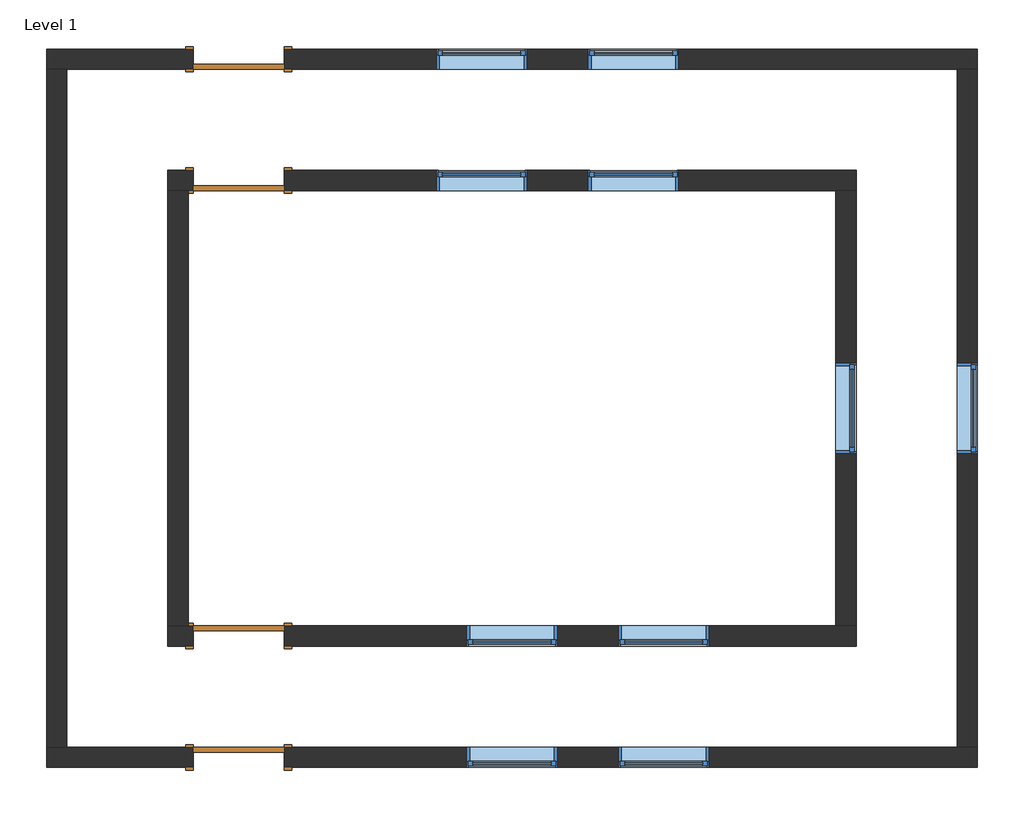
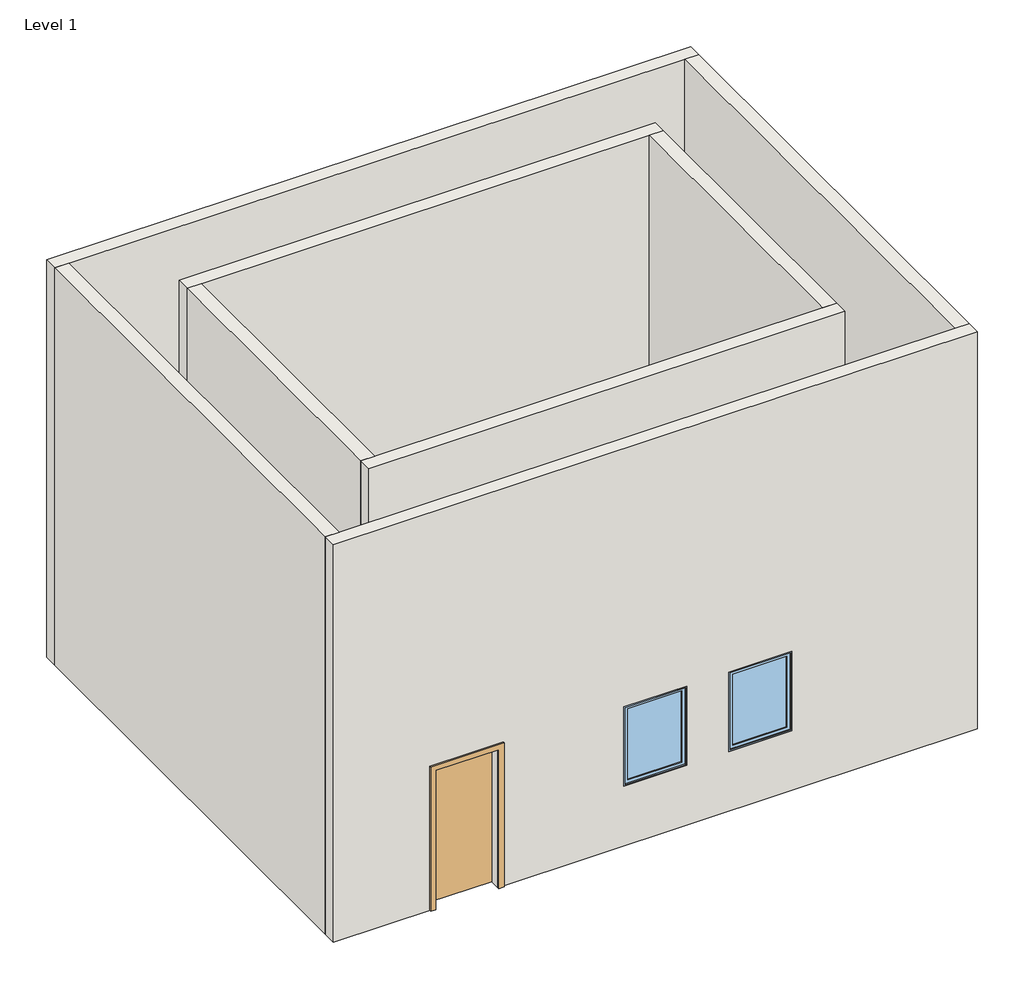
# One storey: 10 windows, 8 walls, 4 doors.
"""IFC4 building model written with IfcOpenShell, lengths in millimetres."""

import ifcopenshell
import ifcopenshell.guid

model = None  # the IFC model being written
_history = None  # IfcOwnerHistory: only IFC2X3 demands one
_inside = {}  # id of a spatial element -> (the spatial element, [elements in it])
_under = {}  # id of a project, library or spatial element -> (it, [spatial elements below it])
_declared = {}  # id of a project -> (the project, [libraries it declares])
_typed = {}  # id of a type object -> (the type object, [elements of that type])
_made_of = {}  # id of a material, layer set ... -> (it, [elements and type objects made of it])


def new_model(schema):
    """Start an empty IFC model of exactly this schema.

    Asked for "IFC4X3", IfcOpenShell would pick the latest addendum, in which some entities
    have other attributes; the version numbers below select the first issue.
    IFC2X3 requires an IfcOwnerHistory on every rooted entity: one is made here for all.
    """
    global model, _history
    if schema == "IFC4X3":
        model = ifcopenshell.file(schema_version=(4, 3, 0, 0))
    else:
        model = ifcopenshell.file(schema=schema)
    _inside.clear()
    _under.clear()
    _declared.clear()
    _typed.clear()
    _made_of.clear()
    _history = None
    if model.schema == "IFC2X3":
        org = make("IfcOrganization", Name="unknown")
        user = make(
            "IfcPersonAndOrganization",
            ThePerson=make("IfcPerson", FamilyName="unknown"),
            TheOrganization=org,
        )
        app = make(
            "IfcApplication",
            ApplicationDeveloper=org,
            Version="unknown",
            ApplicationFullName="unknown",
            ApplicationIdentifier="unknown",
        )
        _history = make(
            "IfcOwnerHistory",
            OwningUser=user,
            OwningApplication=app,
            ChangeAction="ADDED",
            CreationDate=0,
        )
    return model


def make(cls, **values):
    """One entity of the class cls with the attributes given. An attribute that is None is left unset."""
    return model.create_entity(
        cls, **{name: value for name, value in values.items() if value is not None}
    )


def rooted(cls, **values):
    """An entity with a GlobalId (a new one), such as an element, a storey or a relation."""
    return make(cls, GlobalId=ifcopenshell.guid.new(), OwnerHistory=_history, **values)


def si_unit(unit_type, name, prefix=None):
    """IfcSIUnit, for example si_unit("LENGTHUNIT", "METRE", prefix="MILLI")."""
    return make("IfcSIUnit", UnitType=unit_type, Prefix=prefix, Name=name)


def assignment(units):
    """IfcUnitAssignment: the units of a project."""
    return None if units is None else make("IfcUnitAssignment", Units=units)


def point(xyz):
    """IfcCartesianPoint."""
    return None if xyz is None else make("IfcCartesianPoint", Coordinates=xyz)


def direction(xyz):
    """IfcDirection."""
    return None if xyz is None else make("IfcDirection", DirectionRatios=xyz)


def frame(location, z_axis=None, x_axis=None):
    """IfcAxis2Placement3D, a coordinate frame: its origin and axes. An axis left out is left unset."""
    return make(
        "IfcAxis2Placement3D",
        Location=point(location),
        Axis=direction(z_axis),
        RefDirection=direction(x_axis),
    )


def origin():
    """The frame at (0, 0, 0) with its axes left unset."""
    return frame((0.0, 0.0, 0.0))


def origin_with_axes():
    """The frame at (0, 0, 0) with the z axis (0, 0, 1) and the x axis (1, 0, 0) written out."""
    return frame((0.0, 0.0, 0.0), z_axis=(0.0, 0.0, 1.0), x_axis=(1.0, 0.0, 0.0))


def place(relative_to, where):
    """IfcLocalPlacement: puts the frame where relative to a parent placement (None: the world)."""
    return make(
        "IfcLocalPlacement", PlacementRelTo=relative_to, RelativePlacement=where
    )


def context(
    kind, dimensions, precision=None, world=None, true_north=None, identifier=None
):
    """IfcGeometricRepresentationContext, for example the 3D "Model" context."""
    return make(
        "IfcGeometricRepresentationContext",
        ContextIdentifier=identifier,
        ContextType=kind,
        CoordinateSpaceDimension=dimensions,
        Precision=precision,
        WorldCoordinateSystem=world,
        TrueNorth=true_north,
    )


def project(units=None, contexts=None):
    """IfcProject with its units and contexts."""
    return rooted(
        "IfcProject",
        Name="project",
        RepresentationContexts=contexts,
        UnitsInContext=assignment(units),
    )


def spatial(cls, under=None, at=None, **own):
    """A site, building, storey or space (cls), placed at a placement, below another one or the project."""
    s = rooted(cls, ObjectPlacement=at, **own)
    if under is not None:
        _under.setdefault(under.id(), (under, []))[1].append(s)
    return s


def polyline(points):
    """IfcPolyline through the points."""
    return make("IfcPolyline", Points=[point(p) for p in points])


def outline(outer, holes=None, kind="AREA"):
    """IfcArbitraryClosedProfileDef: a profile drawn as a closed curve; with holes, ...WithVoids."""
    if holes is None:
        return make("IfcArbitraryClosedProfileDef", ProfileType=kind, OuterCurve=outer)
    return make(
        "IfcArbitraryProfileDefWithVoids",
        ProfileType=kind,
        OuterCurve=outer,
        InnerCurves=holes,
    )


def extrude(swept, where, along, depth):
    """IfcExtrudedAreaSolid: the profile swept, set in the frame where, extruded along a direction by depth."""
    return make(
        "IfcExtrudedAreaSolid",
        SweptArea=swept,
        Position=where,
        ExtrudedDirection=direction(along),
        Depth=depth,
    )


def faces_of(points, faces, orient=None, outer=None):
    """IfcFace entities. A face is a list of loops; a loop is a list of indices into points, from 0.

    orient and outer hold one flag for each loop. By default every Orientation is true, the
    first loop of a face is its IfcFaceOuterBound and the others are IfcFaceBound.
    """
    made = []
    for i, loops in enumerate(faces):
        bounds = []
        for j, loop in enumerate(loops):
            is_outer = j == 0 if outer is None else outer[i][j]
            bounds.append(
                make(
                    "IfcFaceOuterBound" if is_outer else "IfcFaceBound",
                    Bound=make("IfcPolyLoop", Polygon=[points[k] for k in loop]),
                    Orientation=True if orient is None else orient[i][j],
                )
            )
        made.append(make("IfcFace", Bounds=bounds))
    return made


def faceted_brep(points, faces, orient=None, outer=None, voids=None):
    """IfcFacetedBrep: a solid bounded by flat faces; with voids (closed shells), ...WithVoids."""
    shared = [point(p) for p in points]
    hull = make("IfcClosedShell", CfsFaces=faces_of(shared, faces, orient, outer))
    if voids is None:
        return make("IfcFacetedBrep", Outer=hull)
    return make(
        "IfcFacetedBrepWithVoids",
        Outer=hull,
        Voids=[
            make(cls, CfsFaces=faces_of(shared, fs, o, b)) for cls, fs, o, b in voids
        ],
    )


def shape(context_of_items, identifier, shape_type, items):
    """IfcShapeRepresentation: the items that make up one representation, for example the "Body"."""
    return make(
        "IfcShapeRepresentation",
        ContextOfItems=context_of_items,
        RepresentationIdentifier=identifier,
        RepresentationType=shape_type,
        Items=items,
    )


def source(mapping_origin, context_of_items, identifier, shape_type, items):
    """IfcRepresentationMap: a shape defined once, which mapped items show again and again."""
    return make(
        "IfcRepresentationMap",
        MappingOrigin=mapping_origin,
        MappedRepresentation=shape(context_of_items, identifier, shape_type, items),
    )


def transform(
    local_origin,
    x_axis=None,
    y_axis=None,
    z_axis=None,
    scale=None,
    scale2=None,
    scale3=None,
    uniform=True,
):
    """IfcCartesianTransformationOperator3D, or its non-uniform kind. x_axis, y_axis, z_axis: its Axis1, 2, 3."""
    if uniform:
        return make(
            "IfcCartesianTransformationOperator3D",
            Axis1=direction(x_axis),
            Axis2=direction(y_axis),
            LocalOrigin=point(local_origin),
            Scale=scale,
            Axis3=direction(z_axis),
        )
    return make(
        "IfcCartesianTransformationOperator3DnonUniform",
        Axis1=direction(x_axis),
        Axis2=direction(y_axis),
        LocalOrigin=point(local_origin),
        Scale=scale,
        Axis3=direction(z_axis),
        Scale2=scale2,
        Scale3=scale3,
    )


def mapped(mapping_source, mapping_target):
    """IfcMappedItem: shows the shape of a source again, moved by a transform."""
    return make(
        "IfcMappedItem", MappingSource=mapping_source, MappingTarget=mapping_target
    )


def made_of(thing, what):
    """Note that an element or type object is made of a material, layer set ...; save() writes the relation."""
    if what is not None:
        _made_of.setdefault(what.id(), (what, []))[1].append(thing)
    return thing


def element(
    cls,
    number,
    at=None,
    inside=None,
    cuts=None,
    type_object=None,
    material=None,
    context=None,
    identifier="Body",
    shape_type=None,
    held_by="IfcProductDefinitionShape",
    body=None,
    shapes=None,
    **own,
):
    """One element of the class cls, such as IfcWall. Its Tag is "e" and its number.

    at: its placement. inside: the storey or other place that contains it. cuts: it is an
    opening in that element (IfcRelVoidsElement). A single representation is given by context,
    identifier, shape_type and body (its items); several are given by shapes. held_by: the class
    of the entity that holds the representations. save() writes the other relations.
    """
    e = rooted(cls, Tag="e%d" % number, ObjectPlacement=at, **own)
    if body is not None:
        shapes = [shape(context, identifier, shape_type, body)]
    if shapes is not None:
        e.Representation = make(held_by, Representations=shapes)
    if inside is not None:
        _inside.setdefault(inside.id(), (inside, []))[1].append(e)
    if cuts is not None:
        rooted(
            "IfcRelVoidsElement", RelatingBuildingElement=cuts, RelatedOpeningElement=e
        )
    if type_object is not None:
        _typed.setdefault(type_object.id(), (type_object, []))[1].append(e)
    return made_of(e, material)


def aggregate(whole, parts):
    """IfcRelAggregates: a whole, such as a stair, and the parts it consists of."""
    return rooted("IfcRelAggregates", RelatingObject=whole, RelatedObjects=parts)


def save(model, path):
    """Write the relations noted so far, then the file.

    IfcRelAggregates (storeys below a building ...), IfcRelContainedInSpatialStructure (elements
    in a storey), IfcRelDefinesByType, IfcRelAssociatesMaterial and IfcRelDeclares: one each for
    every whole, place, type object, material and project.
    """
    for whole, parts in _under.values():
        aggregate(whole, parts)
    for where, things in _inside.values():
        rooted(
            "IfcRelContainedInSpatialStructure",
            RelatedElements=things,
            RelatingStructure=where,
        )
    for kind, things in _typed.values():
        rooted("IfcRelDefinesByType", RelatedObjects=things, RelatingType=kind)
    for what, things in _made_of.values():
        rooted("IfcRelAssociatesMaterial", RelatedObjects=things, RelatingMaterial=what)
    for by, libraries in _declared.values():
        rooted("IfcRelDeclares", RelatingContext=by, RelatedDefinitions=libraries)
    model.write(path)


def door_54dd4da4(model_context):
    return source(origin(), model_context, "Body", "SweptSolid", [
        extrude(outline(polyline([(2209.8, -533.4), (0.0, -533.4), (0.0, -457.2), (2133.6, -457.2), (2133.6, 457.2), (0.0, 457.2), (0.0, 533.4), (2209.8, 533.4), (2209.8, -533.4)])), frame((0.0, 101.6, 0.0), z_axis=(0.0, 1.0, 0.0), x_axis=(0.0, 0.0, 1.0)), (0.0, 0.0, 1.0), 25.4),
        extrude(outline(polyline([(2209.8, 533.4), (2209.8, -533.4), (0.0, -533.4), (0.0, -457.2), (2133.6, -457.2), (2133.6, 457.2), (0.0, 457.2), (0.0, 533.4), (2209.8, 533.4)])), frame((0.0, -127.0, 0.0), z_axis=(0.0, 1.0, 0.0), x_axis=(0.0, 0.0, 1.0)), (0.0, 0.0, 1.0), 25.4),
        extrude(outline(polyline([(457.2, 50.8), (-457.2, 50.8), (-457.2, 101.6), (457.2, 101.6), (457.2, 50.8)])), origin_with_axes(), (0.0, 0.0, 1.0), 2133.6),
    ])


def door_719f80de(model_context):
    return source(origin(), model_context, "Body", "SweptSolid", [
        extrude(outline(polyline([(2209.8, -533.4), (0.0, -533.4), (0.0, -457.2), (2133.6, -457.2), (2133.6, 457.2), (0.0, 457.2), (0.0, 533.4), (2209.8, 533.4), (2209.8, -533.4)])), frame((0.0, -127.0, 0.0), z_axis=(0.0, 1.0, 0.0), x_axis=(0.0, 0.0, 1.0)), (0.0, 0.0, 1.0), 25.4),
        extrude(outline(polyline([(2209.8, 533.4), (2209.8, -533.4), (0.0, -533.4), (0.0, -457.2), (2133.6, -457.2), (2133.6, 457.2), (0.0, 457.2), (0.0, 533.4), (2209.8, 533.4)])), frame((0.0, 101.6, 0.0), z_axis=(0.0, 1.0, 0.0), x_axis=(0.0, 0.0, 1.0)), (0.0, 0.0, 1.0), 25.4),
        extrude(outline(polyline([(457.2, -50.8), (457.2, -101.6), (-457.2, -101.6), (-457.2, -50.8), (457.2, -50.8)])), origin_with_axes(), (0.0, 0.0, 1.0), 2133.6),
    ])


def window_e2841890(model_context):
    return source(origin(), model_context, "Body", "SweptSolid", [
        extrude(outline(polyline([(355.6, 53.975), (-431.8, 53.975), (-431.8, 66.675), (355.6, 66.675), (355.6, 53.975)])), frame((0.0, 0.0, 977.9), z_axis=(0.0, 0.0, 1.0), x_axis=(1.0, 0.0, 0.0)), (0.0, 0.0, 1.0), 1092.2),
        extrude(outline(polyline([(2114.55, -476.25), (933.45, -476.25), (933.45, 400.05), (2114.55, 400.05), (2114.55, -476.25)]), holes=[polyline([(2070.1, -431.8), (2070.1, 355.6), (977.9, 355.6), (977.9, -431.8), (2070.1, -431.8)])]), frame((0.0, 38.1, 0.0), z_axis=(0.0, 1.0, 0.0), x_axis=(0.0, 0.0, 1.0)), (0.0, 0.0, 1.0), 44.45),
        extrude(outline(polyline([(2133.6, -495.3), (914.4, -495.3), (914.4, 419.1), (2133.6, 419.1), (2133.6, -495.3)]), holes=[polyline([(2101.85, -463.55), (2101.85, 387.35), (946.15, 387.35), (946.15, -463.55), (2101.85, -463.55)])]), frame((0.0, -101.6, 0.0), z_axis=(0.0, 1.0, 0.0), x_axis=(0.0, 0.0, 1.0)), (0.0, 0.0, 1.0), 139.7),
        extrude(outline(polyline([(2133.6, 419.1), (2133.6, -495.3), (914.4, -495.3), (914.4, 419.1), (2133.6, 419.1)]), holes=[polyline([(2114.55, 400.05), (933.45, 400.05), (933.45, -476.25), (2114.55, -476.25), (2114.55, 400.05)])]), frame((0.0, 38.1, 0.0), z_axis=(0.0, 1.0, 0.0), x_axis=(0.0, 0.0, 1.0)), (0.0, 0.0, 1.0), 63.5),
    ])


model = new_model("IFC4")

# Units and contexts
model_context = context("Model", 3, world=origin())
ifc_project = project(units=[si_unit("LENGTHUNIT", "METRE", prefix="MILLI")], contexts=[model_context])

# Site, building, storey
site = spatial("IfcSite", under=ifc_project)
building = spatial("IfcBuilding", under=site)
storey = spatial("IfcBuildingStorey", under=building, Name="Level 1", Elevation=0.0)

# Doors
placement = place(None, origin())
door_shape = door_54dd4da4(model_context)
element("IfcDoor", 1, ObjectType="Single-Flush : 36\" x 84\"", at=placement, inside=storey, context=model_context, shape_type="MappedRepresentation", body=[
    mapped(door_shape, transform((135.110647, 2029.2153542, 0.0), x_axis=(-1.0, 0.0, 0.0), y_axis=(0.0, -1.0, 0.0), z_axis=(0.0, 0.0, 1.0))),
])
element("IfcDoor", 2, ObjectType="Single-Flush : 36\" x 84\"", at=placement, inside=storey, context=model_context, shape_type="MappedRepresentation", body=[
    mapped(door_shape, transform((135.110647, 3248.4153542, 0.0), x_axis=(-1.0, 0.0, 0.0), y_axis=(0.0, -1.0, 0.0), z_axis=(0.0, 0.0, 1.0))),
])
door_2_shape = door_719f80de(model_context)
element("IfcDoor", 3, ObjectType="Single-Flush : 36\" x 84\"", at=placement, inside=storey, context=model_context, shape_type="MappedRepresentation", body=[
    mapped(door_2_shape, transform((135.110647, -2542.7846458, 0.0), x_axis=(-0.9999999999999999, 0.0, 0.0), y_axis=(0.0, -0.9999999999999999, 0.0), z_axis=(0.0, 0.0, 1.0))),
])
element("IfcDoor", 4, ObjectType="Single-Flush : 36\" x 84\"", at=placement, inside=storey, context=model_context, shape_type="MappedRepresentation", body=[
    mapped(door_2_shape, transform((135.110647, -3761.9846458, 0.0), x_axis=(-1.0, 0.0, 0.0), y_axis=(0.0, -1.0, 0.0), z_axis=(0.0, 0.0, 1.0))),
])

# Walls
element("IfcWall", 5, ObjectType="Generic - 8\"", at=placement, inside=storey, context=model_context, shape_type="Brep", body=[
    faceted_brep([(-576.089353, 1927.6153542, 0.0), (-372.889353, 1927.6153542, 0.0), (-322.089353, 1927.6153542, 0.0), (-322.089353, 1927.6153542, 2133.6), (592.310647, 1927.6153542, 2133.6), (592.310647, 1927.6153542, 0.0), (6129.510647, 1927.6153542, 0.0), (6332.710647, 1927.6153542, 0.0), (6332.710647, 1927.6153542, 6096.0), (6129.510647, 1927.6153542, 6096.0), (-372.889353, 1927.6153542, 6096.0), (-576.089353, 1927.6153542, 6096.0), (3030.710647, 1927.6153542, 2133.6), (3030.710647, 1927.6153542, 914.4), (2116.310647, 1927.6153542, 914.4), (2116.310647, 1927.6153542, 2133.6), (4554.710647, 1927.6153542, 2133.6), (4554.710647, 1927.6153542, 914.4), (3640.310647, 1927.6153542, 914.4), (3640.310647, 1927.6153542, 2133.6), (-322.089353, 2130.8153542, 2133.6), (-322.089353, 2130.8153542, 0.0), (-576.089353, 2130.8153542, 0.0), (-576.089353, 2130.8153542, 6096.0), (6332.710647, 2130.8153542, 6096.0), (6332.710647, 2130.8153542, 0.0), (592.310647, 2130.8153542, 0.0), (592.310647, 2130.8153542, 2133.6), (3030.710647, 2130.8153542, 2133.6), (2116.310647, 2130.8153542, 2133.6), (2116.310647, 2130.8153542, 914.4), (3030.710647, 2130.8153542, 914.4), (4554.710647, 2130.8153542, 2133.6), (3640.310647, 2130.8153542, 2133.6), (3640.310647, 2130.8153542, 914.4), (4554.710647, 2130.8153542, 914.4)], [[[0, 1, 2, 3, 4, 5, 6, 7, 8, 9, 10, 11], [12, 13, 14, 15], [16, 17, 18, 19]], [[20, 21, 22, 23, 24, 25, 26, 27], [28, 29, 30, 31], [32, 33, 34, 35]], [[22, 21, 2, 1, 0]], [[26, 25, 7, 6, 5]], [[11, 10, 9, 8, 24, 23]], [[8, 7, 25, 24]], [[0, 11, 23, 22]], [[3, 2, 21, 20]], [[4, 3, 20, 27]], [[5, 4, 27, 26]], [[13, 12, 28, 31]], [[14, 13, 31, 30]], [[15, 14, 30, 29]], [[12, 15, 29, 28]], [[17, 16, 32, 35]], [[18, 17, 35, 34]], [[19, 18, 34, 33]], [[16, 19, 33, 32]]]),
])
element("IfcWall", 6, ObjectType="Generic - 8\"", at=placement, inside=storey, context=model_context, shape_type="SweptSolid", body=[
    extrude(outline(polyline([(1927.6153542, 0.0), (-2441.1846458, 0.0), (-2441.1846458, 6096.0), (1927.6153542, 6096.0), (1927.6153542, 0.0)]), holes=[polyline([(-713.9846458, 2133.6), (-713.9846458, 914.4), (200.4153542, 914.4), (200.4153542, 2133.6), (-713.9846458, 2133.6)])]), frame((6129.510647, 0.0, 0.0), z_axis=(1.0, 0.0, 0.0), x_axis=(0.0, 1.0, 0.0)), (0.0, 0.0, 1.0), 203.2),
])
element("IfcWall", 7, ObjectType="Generic - 8\"", at=placement, inside=storey, context=model_context, shape_type="Brep", body=[
    faceted_brep([(-322.089353, -2441.1846458, 2133.6), (-322.089353, -2441.1846458, 0.0), (-372.889353, -2441.1846458, 0.0), (-576.089353, -2441.1846458, 0.0), (-576.089353, -2441.1846458, 6096.0), (-372.889353, -2441.1846458, 6096.0), (6129.510647, -2441.1846458, 6096.0), (6332.710647, -2441.1846458, 6096.0), (6332.710647, -2441.1846458, 0.0), (6129.510647, -2441.1846458, 0.0), (592.310647, -2441.1846458, 0.0), (592.310647, -2441.1846458, 2133.6), (3945.110647, -2441.1846458, 2133.6), (3945.110647, -2441.1846458, 914.4), (4859.510647, -2441.1846458, 914.4), (4859.510647, -2441.1846458, 2133.6), (2421.110647, -2441.1846458, 2133.6), (2421.110647, -2441.1846458, 914.4), (3335.510647, -2441.1846458, 914.4), (3335.510647, -2441.1846458, 2133.6), (-576.089353, -2644.3846458, 0.0), (-322.089353, -2644.3846458, 0.0), (-322.089353, -2644.3846458, 2133.6), (592.310647, -2644.3846458, 2133.6), (592.310647, -2644.3846458, 0.0), (6332.710647, -2644.3846458, 0.0), (6332.710647, -2644.3846458, 6096.0), (-576.089353, -2644.3846458, 6096.0), (3945.110647, -2644.3846458, 2133.6), (4859.510647, -2644.3846458, 2133.6), (4859.510647, -2644.3846458, 914.4), (3945.110647, -2644.3846458, 914.4), (2421.110647, -2644.3846458, 2133.6), (3335.510647, -2644.3846458, 2133.6), (3335.510647, -2644.3846458, 914.4), (2421.110647, -2644.3846458, 914.4)], [[[0, 1, 2, 3, 4, 5, 6, 7, 8, 9, 10, 11], [12, 13, 14, 15], [16, 17, 18, 19]], [[20, 21, 22, 23, 24, 25, 26, 27], [28, 29, 30, 31], [32, 33, 34, 35]], [[3, 2, 1, 21, 20]], [[10, 9, 8, 25, 24]], [[7, 6, 5, 4, 27, 26]], [[4, 3, 20, 27]], [[8, 7, 26, 25]], [[22, 21, 1, 0]], [[23, 22, 0, 11]], [[24, 23, 11, 10]], [[13, 12, 28, 31]], [[14, 13, 31, 30]], [[15, 14, 30, 29]], [[12, 15, 29, 28]], [[17, 16, 32, 35]], [[18, 17, 35, 34]], [[19, 18, 34, 33]], [[16, 19, 33, 32]]]),
])
element("IfcWall", 8, ObjectType="Generic - 8\"", at=placement, inside=storey, context=model_context, shape_type="SweptSolid", body=[
    extrude(outline(polyline([(-372.889353, 1927.6153542), (-372.889353, -2441.1846458), (-576.089353, -2441.1846458), (-576.089353, 1927.6153542), (-372.889353, 1927.6153542)])), origin_with_axes(), (0.0, 0.0, 1.0), 6096.0),
])
element("IfcWall", 9, ObjectType="Generic - 8\"", at=placement, inside=storey, context=model_context, shape_type="Brep", body=[
    faceted_brep([(-1795.289353, 3146.8153542, 0.0), (-1592.089353, 3146.8153542, 0.0), (-322.089353, 3146.8153542, 0.0), (-322.089353, 3146.8153542, 2133.6), (592.310647, 3146.8153542, 2133.6), (592.310647, 3146.8153542, 0.0), (7348.710647, 3146.8153542, 0.0), (7551.910647, 3146.8153542, 0.0), (7551.910647, 3146.8153542, 6096.0), (7348.710647, 3146.8153542, 6096.0), (-1592.089353, 3146.8153542, 6096.0), (-1795.289353, 3146.8153542, 6096.0), (3030.710647, 3146.8153542, 2133.6), (3030.710647, 3146.8153542, 914.4), (2116.310647, 3146.8153542, 914.4), (2116.310647, 3146.8153542, 2133.6), (4554.710647, 3146.8153542, 2133.6), (4554.710647, 3146.8153542, 914.4), (3640.310647, 3146.8153542, 914.4), (3640.310647, 3146.8153542, 2133.6), (-322.089353, 3350.0153542, 2133.6), (-322.089353, 3350.0153542, 0.0), (-1795.289353, 3350.0153542, 0.0), (-1795.289353, 3350.0153542, 6096.0), (7551.910647, 3350.0153542, 6096.0), (7551.910647, 3350.0153542, 0.0), (592.310647, 3350.0153542, 0.0), (592.310647, 3350.0153542, 2133.6), (3030.710647, 3350.0153542, 2133.6), (2116.310647, 3350.0153542, 2133.6), (2116.310647, 3350.0153542, 914.4), (3030.710647, 3350.0153542, 914.4), (4554.710647, 3350.0153542, 2133.6), (3640.310647, 3350.0153542, 2133.6), (3640.310647, 3350.0153542, 914.4), (4554.710647, 3350.0153542, 914.4)], [[[0, 1, 2, 3, 4, 5, 6, 7, 8, 9, 10, 11], [12, 13, 14, 15], [16, 17, 18, 19]], [[20, 21, 22, 23, 24, 25, 26, 27], [28, 29, 30, 31], [32, 33, 34, 35]], [[22, 21, 2, 1, 0]], [[26, 25, 7, 6, 5]], [[11, 10, 9, 8, 24, 23]], [[8, 7, 25, 24]], [[0, 11, 23, 22]], [[3, 2, 21, 20]], [[4, 3, 20, 27]], [[5, 4, 27, 26]], [[13, 12, 28, 31]], [[14, 13, 31, 30]], [[15, 14, 30, 29]], [[12, 15, 29, 28]], [[17, 16, 32, 35]], [[18, 17, 35, 34]], [[19, 18, 34, 33]], [[16, 19, 33, 32]]]),
])
element("IfcWall", 10, ObjectType="Generic - 8\"", at=placement, inside=storey, context=model_context, shape_type="SweptSolid", body=[
    extrude(outline(polyline([(3146.8153542, 0.0), (-3660.3846458, 0.0), (-3660.3846458, 6096.0), (3146.8153542, 6096.0), (3146.8153542, 0.0)]), holes=[polyline([(-713.9846458, 2133.6), (-713.9846458, 914.4), (200.4153542, 914.4), (200.4153542, 2133.6), (-713.9846458, 2133.6)])]), frame((7348.710647, 0.0, 0.0), z_axis=(1.0, 0.0, 0.0), x_axis=(0.0, 1.0, 0.0)), (0.0, 0.0, 1.0), 203.2),
])
element("IfcWall", 11, ObjectType="Generic - 8\"", at=placement, inside=storey, context=model_context, shape_type="Brep", body=[
    faceted_brep([(-322.089353, -3660.3846458, 2133.6), (-322.089353, -3660.3846458, 0.0), (-1592.089353, -3660.3846458, 0.0), (-1795.289353, -3660.3846458, 0.0), (-1795.289353, -3660.3846458, 6096.0), (-1592.089353, -3660.3846458, 6096.0), (7348.710647, -3660.3846458, 6096.0), (7551.910647, -3660.3846458, 6096.0), (7551.910647, -3660.3846458, 0.0), (7348.710647, -3660.3846458, 0.0), (592.310647, -3660.3846458, 0.0), (592.310647, -3660.3846458, 2133.6), (3945.110647, -3660.3846458, 2133.6), (3945.110647, -3660.3846458, 914.4), (4859.510647, -3660.3846458, 914.4), (4859.510647, -3660.3846458, 2133.6), (2421.110647, -3660.3846458, 2133.6), (2421.110647, -3660.3846458, 914.4), (3335.510647, -3660.3846458, 914.4), (3335.510647, -3660.3846458, 2133.6), (-1795.289353, -3863.5846458, 0.0), (-322.089353, -3863.5846458, 0.0), (-322.089353, -3863.5846458, 2133.6), (592.310647, -3863.5846458, 2133.6), (592.310647, -3863.5846458, 0.0), (7551.910647, -3863.5846458, 0.0), (7551.910647, -3863.5846458, 6096.0), (-1795.289353, -3863.5846458, 6096.0), (3945.110647, -3863.5846458, 2133.6), (4859.510647, -3863.5846458, 2133.6), (4859.510647, -3863.5846458, 914.4), (3945.110647, -3863.5846458, 914.4), (2421.110647, -3863.5846458, 2133.6), (3335.510647, -3863.5846458, 2133.6), (3335.510647, -3863.5846458, 914.4), (2421.110647, -3863.5846458, 914.4)], [[[0, 1, 2, 3, 4, 5, 6, 7, 8, 9, 10, 11], [12, 13, 14, 15], [16, 17, 18, 19]], [[20, 21, 22, 23, 24, 25, 26, 27], [28, 29, 30, 31], [32, 33, 34, 35]], [[3, 2, 1, 21, 20]], [[10, 9, 8, 25, 24]], [[7, 6, 5, 4, 27, 26]], [[4, 3, 20, 27]], [[8, 7, 26, 25]], [[22, 21, 1, 0]], [[23, 22, 0, 11]], [[24, 23, 11, 10]], [[13, 12, 28, 31]], [[14, 13, 31, 30]], [[15, 14, 30, 29]], [[12, 15, 29, 28]], [[17, 16, 32, 35]], [[18, 17, 35, 34]], [[19, 18, 34, 33]], [[16, 19, 33, 32]]]),
])
element("IfcWall", 12, ObjectType="Generic - 8\"", at=placement, inside=storey, context=model_context, shape_type="SweptSolid", body=[
    extrude(outline(polyline([(-1592.089353, 3146.8153542), (-1592.089353, -3660.3846458), (-1795.289353, -3660.3846458), (-1795.289353, 3146.8153542), (-1592.089353, 3146.8153542)])), origin_with_axes(), (0.0, 0.0, 1.0), 6096.0),
])

# Windows
window_shape = window_e2841890(model_context)
element("IfcWindow", 13, ObjectType="Fixed : 36\" x 48\"", at=placement, inside=storey, context=model_context, shape_type="MappedRepresentation", body=[
    mapped(window_shape, transform((2611.610647, 2029.2153542, 0.0), x_axis=(1.0, 0.0, 0.0), y_axis=(0.0, 1.0, 0.0), z_axis=(0.0, 0.0, 1.0))),
])
element("IfcWindow", 14, ObjectType="Fixed : 36\" x 48\"", at=placement, inside=storey, context=model_context, shape_type="MappedRepresentation", body=[
    mapped(window_shape, transform((4135.610647, 2029.2153542, 0.0), x_axis=(1.0, 0.0, 0.0), y_axis=(0.0, 1.0, 0.0), z_axis=(0.0, 0.0, 1.0))),
])
element("IfcWindow", 15, ObjectType="Fixed : 36\" x 48\"", at=placement, inside=storey, context=model_context, shape_type="MappedRepresentation", body=[
    mapped(window_shape, transform((6231.110647, -294.8846458, 0.0), x_axis=(0.0, -1.0, 0.0), y_axis=(1.0, 0.0, 0.0), z_axis=(0.0, 0.0, 1.0))),
])
element("IfcWindow", 16, ObjectType="Fixed : 36\" x 48\"", at=placement, inside=storey, context=model_context, shape_type="MappedRepresentation", body=[
    mapped(window_shape, transform((4364.210647, -2542.7846458, 0.0), x_axis=(-0.9999999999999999, 0.0, 0.0), y_axis=(0.0, -0.9999999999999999, 0.0), z_axis=(0.0, 0.0, 1.0))),
])
element("IfcWindow", 17, ObjectType="Fixed : 36\" x 48\"", at=placement, inside=storey, context=model_context, shape_type="MappedRepresentation", body=[
    mapped(window_shape, transform((2840.210647, -2542.7846458, 0.0), x_axis=(-0.9999999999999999, 0.0, 0.0), y_axis=(0.0, -0.9999999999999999, 0.0), z_axis=(0.0, 0.0, 1.0))),
])
element("IfcWindow", 18, ObjectType="Fixed : 36\" x 48\"", at=placement, inside=storey, context=model_context, shape_type="MappedRepresentation", body=[
    mapped(window_shape, transform((2611.610647, 3248.4153542, 0.0), x_axis=(1.0, 0.0, 0.0), y_axis=(0.0, 1.0, 0.0), z_axis=(0.0, 0.0, 1.0))),
])
element("IfcWindow", 19, ObjectType="Fixed : 36\" x 48\"", at=placement, inside=storey, context=model_context, shape_type="MappedRepresentation", body=[
    mapped(window_shape, transform((4135.610647, 3248.4153542, 0.0), x_axis=(1.0, 0.0, 0.0), y_axis=(0.0, 1.0, 0.0), z_axis=(0.0, 0.0, 1.0))),
])
element("IfcWindow", 20, ObjectType="Fixed : 36\" x 48\"", at=placement, inside=storey, context=model_context, shape_type="MappedRepresentation", body=[
    mapped(window_shape, transform((7450.310647, -294.8846458, 0.0), x_axis=(0.0, -1.0, 0.0), y_axis=(1.0, 0.0, 0.0), z_axis=(0.0, 0.0, 1.0))),
])
element("IfcWindow", 21, ObjectType="Fixed : 36\" x 48\"", at=placement, inside=storey, context=model_context, shape_type="MappedRepresentation", body=[
    mapped(window_shape, transform((4364.210647, -3761.9846458, 0.0), x_axis=(-1.0, 0.0, 0.0), y_axis=(0.0, -1.0, 0.0), z_axis=(0.0, 0.0, 1.0))),
])
element("IfcWindow", 22, ObjectType="Fixed : 36\" x 48\"", at=placement, inside=storey, context=model_context, shape_type="MappedRepresentation", body=[
    mapped(window_shape, transform((2840.210647, -3761.9846458, 0.0), x_axis=(-1.0, 0.0, 0.0), y_axis=(0.0, -1.0, 0.0), z_axis=(0.0, 0.0, 1.0))),
])

save(model, "model.ifc")
